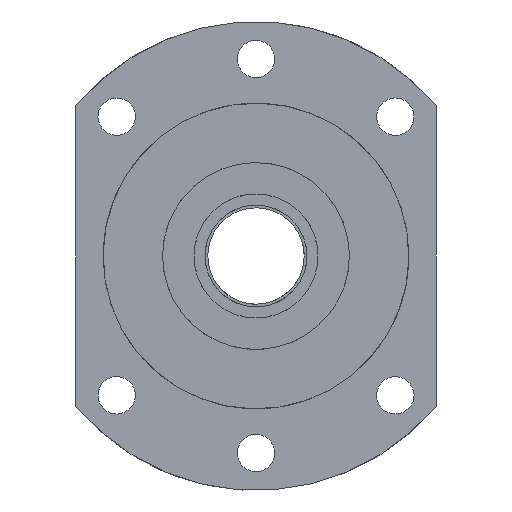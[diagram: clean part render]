
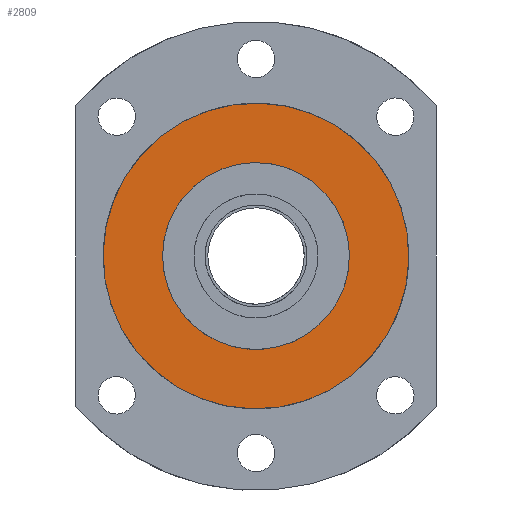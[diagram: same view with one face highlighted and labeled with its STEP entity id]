
A CAD part, left-side view. The second image highlights one B-rep face of the part: STEP entity #2809.
In plain terms, the highlighted planar face has unit normal (-1, 0, 0).
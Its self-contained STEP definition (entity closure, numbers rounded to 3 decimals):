
#2527=CARTESIAN_POINT('Vertex',(-45.,21.574,39.491)) ;
#2534=CARTESIAN_POINT('Vertex',(-45.,-21.574,-39.491)) ;
#2537=CARTESIAN_POINT('Axis2P3D Location',(-45.,0.,0.)) ;
#2554=CARTESIAN_POINT('Axis2P3D Location',(-45.,0.,0.)) ;
#2741=CARTESIAN_POINT('Axis2P3D Location',(-45.,0.,0.)) ;
#2745=CARTESIAN_POINT('Vertex',(-45.,24.134,13.184)) ;
#2747=CARTESIAN_POINT('Vertex',(-45.,-24.134,-13.184)) ;
#2773=CARTESIAN_POINT('Control Point',(-45.,-24.134,-13.184)) ;
#2774=CARTESIAN_POINT('Control Point',(-45.,-22.063,-16.975)) ;
#2775=CARTESIAN_POINT('Control Point',(-45.,-19.247,-20.359)) ;
#2776=CARTESIAN_POINT('Control Point',(-45.,-15.793,-23.141)) ;
#2777=CARTESIAN_POINT('Control Point',(-45.,-7.981,-27.201)) ;
#2778=CARTESIAN_POINT('Control Point',(-45.,0.786,-28.006)) ;
#2779=CARTESIAN_POINT('Control Point',(-45.,5.196,-27.531)) ;
#2780=CARTESIAN_POINT('Control Point',(-45.,13.591,-24.878)) ;
#2781=CARTESIAN_POINT('Control Point',(-45.,20.359,-19.247)) ;
#2782=CARTESIAN_POINT('Control Point',(-45.,23.141,-15.793)) ;
#2783=CARTESIAN_POINT('Control Point',(-45.,27.201,-7.981)) ;
#2784=CARTESIAN_POINT('Control Point',(-45.,28.006,0.786)) ;
#2785=CARTESIAN_POINT('Control Point',(-45.,27.531,5.196)) ;
#2786=CARTESIAN_POINT('Control Point',(-45.,26.204,9.393)) ;
#2787=CARTESIAN_POINT('Control Point',(-45.,24.134,13.184)) ;
#2796=CARTESIAN_POINT('Axis2P3D Location',(-45.,0.,0.)) ;
#2538=DIRECTION('Axis2P3D Direction',(-1.,0.,0.)) ;
#2555=DIRECTION('Axis2P3D Direction',(-1.,0.,0.)) ;
#2742=DIRECTION('Axis2P3D Direction',(1.,-0.,0.)) ;
#2797=DIRECTION('Axis2P3D Direction',(1.,0.,0.)) ;
#2798=DIRECTION('Axis2P3D XDirection',(0.,1.,0.)) ;
#2539=AXIS2_PLACEMENT_3D('Circle Axis2P3D',#2537,#2538,$) ;
#2556=AXIS2_PLACEMENT_3D('Circle Axis2P3D',#2554,#2555,$) ;
#2743=AXIS2_PLACEMENT_3D('Circle Axis2P3D',#2741,#2742,$) ;
#2799=AXIS2_PLACEMENT_3D('Plane Axis2P3D',#2796,#2797,#2798) ;
#2802=ORIENTED_EDGE('',*,*,#2541,.F.) ;
#2803=ORIENTED_EDGE('',*,*,#2558,.F.) ;
#2806=ORIENTED_EDGE('',*,*,#2788,.T.) ;
#2807=ORIENTED_EDGE('',*,*,#2749,.T.) ;
#2808=FACE_BOUND('',#2805,.T.) ;
#2809=ADVANCED_FACE('FK30(H)',(#2804,#2808),#2800,.F.) ;
#2772=B_SPLINE_CURVE_WITH_KNOTS('',5,(#2773,#2774,#2775,#2776,#2777,#2778,#2779,#2780,#2781,#2782,#2783,#2784,#2785,#2786,#2787),.UNSPECIFIED.,.F.,.U.,(6,3,3,3,6),(-43.197,-21.598,0.,21.598,43.197),.UNSPECIFIED.) ;
#2540=CIRCLE('generated circle',#2539,45.) ;
#2557=CIRCLE('generated circle',#2556,45.) ;
#2744=CIRCLE('generated circle',#2743,27.5) ;
#2541=EDGE_CURVE('',#2535,#2528,#2540,.F.) ;
#2558=EDGE_CURVE('',#2528,#2535,#2557,.F.) ;
#2749=EDGE_CURVE('',#2746,#2748,#2744,.T.) ;
#2788=EDGE_CURVE('',#2748,#2746,#2772,.T.) ;
#2801=EDGE_LOOP('',(#2802,#2803)) ;
#2805=EDGE_LOOP('',(#2806,#2807)) ;
#2804=FACE_OUTER_BOUND('',#2801,.T.) ;
#2800=PLANE('Plane',#2799) ;
#2528=VERTEX_POINT('',#2527) ;
#2535=VERTEX_POINT('',#2534) ;
#2746=VERTEX_POINT('',#2745) ;
#2748=VERTEX_POINT('',#2747) ;
